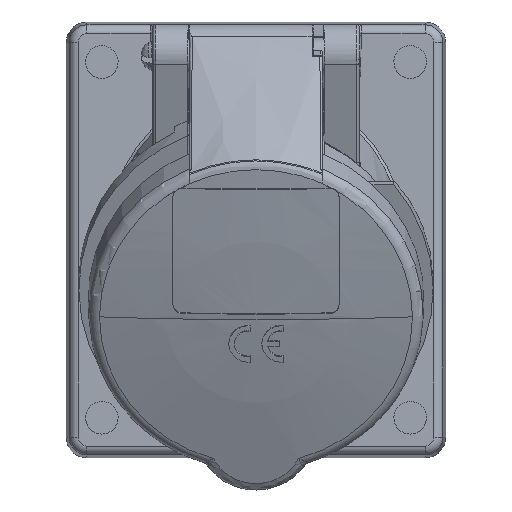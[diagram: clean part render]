
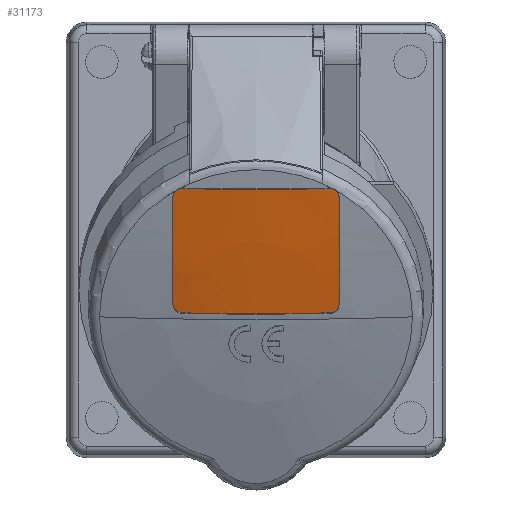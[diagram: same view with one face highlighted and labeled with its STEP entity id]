
A CAD part, top view. The second image highlights one B-rep face of the part: STEP entity #31173.
In plain terms, the highlighted spherical face has radius 249.7 mm.
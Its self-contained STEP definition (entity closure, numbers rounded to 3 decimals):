
#3197=CARTESIAN_POINT('',(14.,71.991,-196.832));
#3198=DIRECTION('',(-1.,0.,0.));
#3199=DIRECTION('',(0.,-0.333,0.943));
#3200=AXIS2_PLACEMENT_3D('',#3197,#3198,#3199);
#3202=CARTESIAN_POINT('',(14.,-10.924,38.283));
#3203=CARTESIAN_POINT('',(14.,-11.007,38.254));
#3204=CARTESIAN_POINT('',(13.984,-11.173,38.196));
#3205=CARTESIAN_POINT('',(13.916,-11.415,38.115));
#3206=CARTESIAN_POINT('',(13.803,-11.643,38.04));
#3207=CARTESIAN_POINT('',(13.65,-11.85,37.975));
#3208=CARTESIAN_POINT('',(13.462,-12.028,37.922));
#3209=CARTESIAN_POINT('',(13.244,-12.174,37.883));
#3210=CARTESIAN_POINT('',(13.002,-12.282,37.857));
#3211=CARTESIAN_POINT('',(12.749,-12.348,37.848));
#3212=CARTESIAN_POINT('',(12.582,-12.363,37.851));
#3213=CARTESIAN_POINT('',(12.5,-12.364,37.855));
#3215=CARTESIAN_POINT('',(0.,72.93,-196.49));
#3216=DIRECTION('',(0.,0.94,0.342));
#3217=DIRECTION('',(-0.05,-0.342,0.939));
#3218=AXIS2_PLACEMENT_3D('',#3215,#3216,#3217);
#3220=CARTESIAN_POINT('',(-12.5,-12.364,37.855));
#3221=CARTESIAN_POINT('',(-12.582,-12.363,
37.851));
#3222=CARTESIAN_POINT('',(-12.749,-12.347,
37.848));
#3223=CARTESIAN_POINT('',(-13.002,-12.282,
37.857));
#3224=CARTESIAN_POINT('',(-13.244,-12.174,
37.883));
#3225=CARTESIAN_POINT('',(-13.462,-12.028,
37.922));
#3226=CARTESIAN_POINT('',(-13.65,-11.85,
37.975));
#3227=CARTESIAN_POINT('',(-13.803,-11.643,
38.04));
#3228=CARTESIAN_POINT('',(-13.916,-11.415,
38.115));
#3229=CARTESIAN_POINT('',(-13.984,-11.173,
38.196));
#3230=CARTESIAN_POINT('',(-14.,-11.007,38.254));
#3231=CARTESIAN_POINT('',(-14.,-10.924,38.283));
#3233=CARTESIAN_POINT('',(-14.,71.991,-196.832));
#3234=DIRECTION('',(1.,0.,0.));
#3235=DIRECTION('',(0.,-0.26,0.966));
#3236=AXIS2_PLACEMENT_3D('',#3233,#3234,#3235);
#3238=CARTESIAN_POINT('',(-14.,7.244,43.921));
#3239=CARTESIAN_POINT('',(-14.,7.328,43.943));
#3240=CARTESIAN_POINT('',(-13.985,7.498,43.99));
#3241=CARTESIAN_POINT('',(-13.916,7.743,44.059));
#3242=CARTESIAN_POINT('',(-13.805,7.972,44.127));
#3243=CARTESIAN_POINT('',(-13.654,8.178,44.19));
#3244=CARTESIAN_POINT('',(-13.468,8.354,44.247));
#3245=CARTESIAN_POINT('',(-13.253,8.497,44.296));
#3246=CARTESIAN_POINT('',(-13.015,8.6,44.336));
#3247=CARTESIAN_POINT('',(-12.762,8.661,44.366));
#3248=CARTESIAN_POINT('',(-12.587,8.673,44.378));
#3249=CARTESIAN_POINT('',(-12.5,8.672,44.382));
#3251=CARTESIAN_POINT('',(0.,93.603,-188.966));
#3252=DIRECTION('',(0.,-0.94,-0.342));
#3253=DIRECTION('',(0.05,-0.342,0.939));
#3254=AXIS2_PLACEMENT_3D('',#3251,#3252,#3253);
#3256=CARTESIAN_POINT('',(12.5,8.672,44.382));
#3257=CARTESIAN_POINT('',(12.587,8.673,44.378));
#3258=CARTESIAN_POINT('',(12.762,8.661,44.366));
#3259=CARTESIAN_POINT('',(13.015,8.6,44.336));
#3260=CARTESIAN_POINT('',(13.253,8.497,44.296));
#3261=CARTESIAN_POINT('',(13.468,8.354,44.247));
#3262=CARTESIAN_POINT('',(13.654,8.178,44.19));
#3263=CARTESIAN_POINT('',(13.805,7.972,44.127));
#3264=CARTESIAN_POINT('',(13.916,7.743,44.059));
#3265=CARTESIAN_POINT('',(13.985,7.498,43.99));
#3266=CARTESIAN_POINT('',(14.,7.328,43.943));
#3267=CARTESIAN_POINT('',(14.,7.244,43.921));
#24239=CARTESIAN_POINT('',(14.,-10.924,38.283));
#24240=CARTESIAN_POINT('',(14.,7.244,43.921));
#24241=VERTEX_POINT('',#24239);
#24242=VERTEX_POINT('',#24240);
#24247=CARTESIAN_POINT('',(12.5,8.672,44.382));
#24248=CARTESIAN_POINT('',(-12.5,8.672,44.382));
#24249=VERTEX_POINT('',#24247);
#24250=VERTEX_POINT('',#24248);
#24255=CARTESIAN_POINT('',(-14.,7.244,43.921));
#24256=CARTESIAN_POINT('',(-14.,-10.924,38.283));
#24257=VERTEX_POINT('',#24255);
#24258=VERTEX_POINT('',#24256);
#24263=CARTESIAN_POINT('',(-12.5,-12.364,37.855));
#24264=CARTESIAN_POINT('',(12.5,-12.364,37.855));
#24265=VERTEX_POINT('',#24263);
#24266=VERTEX_POINT('',#24264);
#31158=CARTESIAN_POINT('',(0.,71.991,-196.832));
#31159=DIRECTION('',(0.,0.342,-0.94));
#31160=DIRECTION('',(-1.,0.,0.));
#31161=AXIS2_PLACEMENT_3D('',#31158,#31159,#31160);
#31162=SPHERICAL_SURFACE('1205',#31161,249.7);
#31163=ORIENTED_EDGE('4192',*,*,#30958,.F.);
#31164=ORIENTED_EDGE('4206',*,*,#30985,.T.);
#31165=ORIENTED_EDGE('4198',*,*,#31011,.F.);
#31166=ORIENTED_EDGE('4204',*,*,#31037,.T.);
#31167=ORIENTED_EDGE('4196',*,*,#31063,.F.);
#31168=ORIENTED_EDGE('4202',*,*,#31089,.T.);
#31169=ORIENTED_EDGE('4194',*,*,#31115,.F.);
#31170=ORIENTED_EDGE('4200',*,*,#31140,.T.);
#31171=EDGE_LOOP('1205',(#31163,#31164,#31165,#31166,#31167,#31168,#31169,
#31170));
#31172=FACE_OUTER_BOUND('1205',#31171,.F.);
#3201=CIRCLE('4192',#3200,249.307);
#3214=B_SPLINE_CURVE_WITH_KNOTS('4206',3,(#3202,#3203,#3204,#3205,#3206,#3207,
#3208,#3209,#3210,#3211,#3212,#3213),.UNSPECIFIED.,.F.,.F.,(4,1,1,1,1,1,1,1,1,
4),(0.,0.111,0.222,0.333,
0.444,0.556,0.667,0.778,
0.889,1.),.UNSPECIFIED.);
#3219=CIRCLE('4198',#3218,249.698);
#3232=B_SPLINE_CURVE_WITH_KNOTS('4204',3,(#3220,#3221,#3222,#3223,#3224,#3225,
#3226,#3227,#3228,#3229,#3230,#3231),.UNSPECIFIED.,.F.,.F.,(4,1,1,1,1,1,1,1,1,
4),(0.,0.111,0.222,0.333,
0.444,0.556,0.667,0.778,
0.889,1.),.UNSPECIFIED.);
#3237=CIRCLE('4196',#3236,249.307);
#3250=B_SPLINE_CURVE_WITH_KNOTS('4202',3,(#3238,#3239,#3240,#3241,#3242,#3243,
#3244,#3245,#3246,#3247,#3248,#3249),.UNSPECIFIED.,.F.,.F.,(4,1,1,1,1,1,1,1,1,
4),(0.,0.111,0.222,0.333,
0.444,0.556,0.667,0.778,
0.889,1.),.UNSPECIFIED.);
#3255=CIRCLE('4194',#3254,248.638);
#3268=B_SPLINE_CURVE_WITH_KNOTS('4200',3,(#3256,#3257,#3258,#3259,#3260,#3261,
#3262,#3263,#3264,#3265,#3266,#3267),.UNSPECIFIED.,.F.,.F.,(4,1,1,1,1,1,1,1,1,
4),(0.,0.111,0.222,0.333,
0.444,0.556,0.667,0.778,
0.889,1.),.UNSPECIFIED.);
#30958=EDGE_CURVE('4192',#24241,#24242,#3201,.T.);
#30985=EDGE_CURVE('4206',#24241,#24266,#3214,.T.);
#31011=EDGE_CURVE('4198',#24265,#24266,#3219,.T.);
#31037=EDGE_CURVE('4204',#24265,#24258,#3232,.T.);
#31063=EDGE_CURVE('4196',#24257,#24258,#3237,.T.);
#31089=EDGE_CURVE('4202',#24257,#24250,#3250,.T.);
#31115=EDGE_CURVE('4194',#24249,#24250,#3255,.T.);
#31140=EDGE_CURVE('4200',#24249,#24242,#3268,.T.);
#31173=ADVANCED_FACE('1205',(#31172),#31162,.T.);
